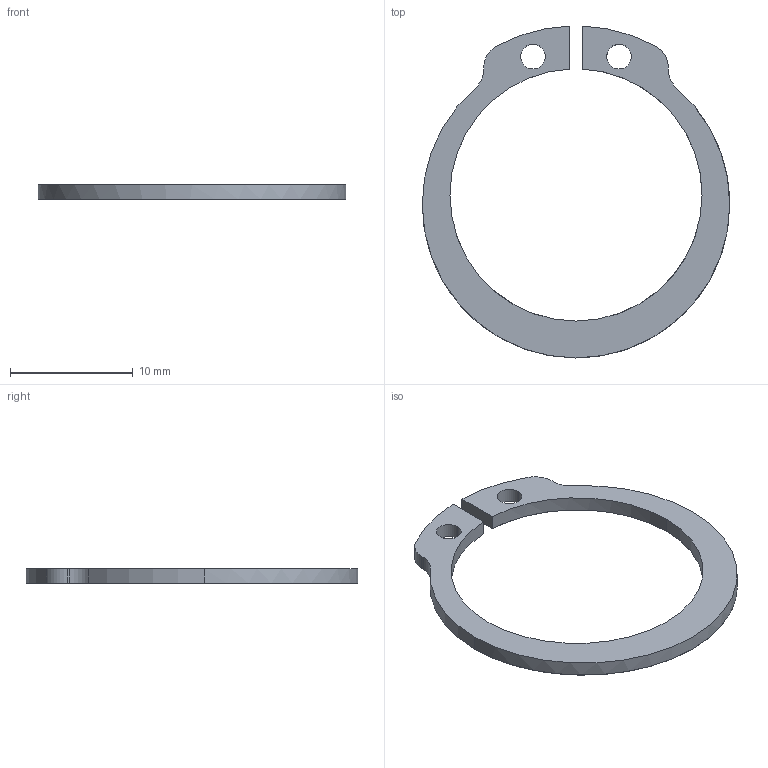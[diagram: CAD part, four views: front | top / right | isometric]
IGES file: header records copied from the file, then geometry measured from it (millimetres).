
Start section: START RECORD GO HERE.
Global section: file name: 553S-R22.igs; native system: DASSAULT SYSTEMES CATIA V5 R20 - www.3ds.com; preprocessor: CATIA Version 5 Release 20 ; author: Utente; organization: NB04-ASUS; date: 20210421.112312; units: millimetre
Bounding box: 25 x 26.99 x 1.2 mm (x, y, z)
Surface area: 560.6 mm2 (no closed solid volume)
Topology: 0 solids, 0 shells, 22 faces, 120 edges, 120 vertices
Faces by surface type: revolution 16, plane 6
